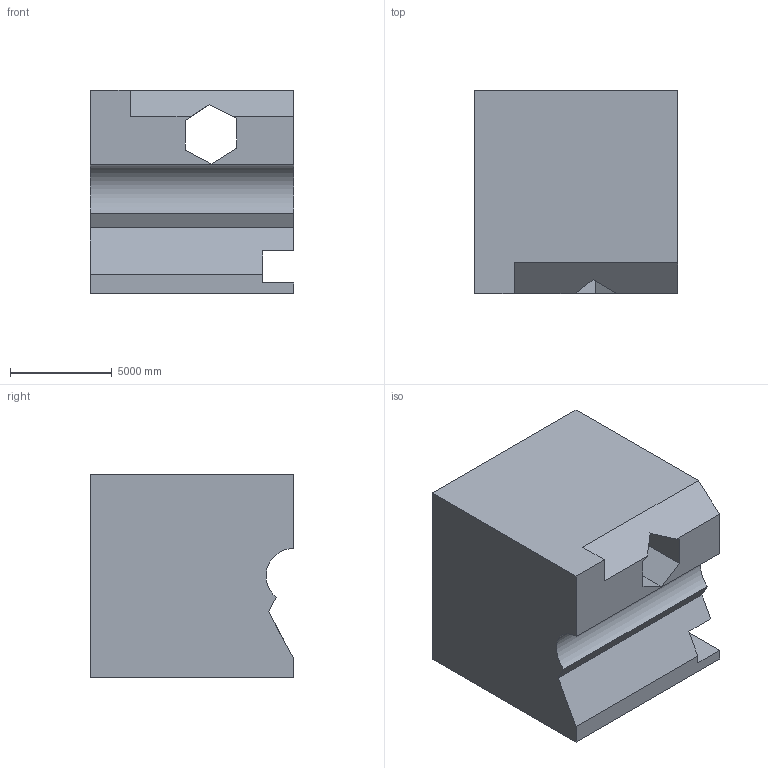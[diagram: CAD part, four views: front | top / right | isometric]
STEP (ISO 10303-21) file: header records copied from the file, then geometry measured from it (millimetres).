
FILE_DESCRIPTION (( 'STEP AP203' ), '1' );
FILE_NAME ('1665.STEP', '2022-08-19T11:30:39', ( 'user' ), ( '' ), 'SwSTEP 2.0', 'SolidWorks 2021', '' );
FILE_SCHEMA (( 'CONFIG_CONTROL_DESIGN' ));
Length unit declared in the file: centimetre
Products named in the file (1): 1665
Bounding box: 10000 x 10000 x 10000 mm (x, y, z)
Volume: 815361450808.3 mm3; surface area: 803650330.8 mm2
Topology: 1 solids, 1 shells, 35 faces, 93 edges, 62 vertices
Faces by surface type: plane 30, cylinder 5
Entity records: 1158 total; most frequent: CARTESIAN_POINT 191, ORIENTED_EDGE 186, DIRECTION 175, EDGE_CURVE 93, LINE 83, VECTOR 83, VERTEX_POINT 62, AXIS2_PLACEMENT_3D 46
